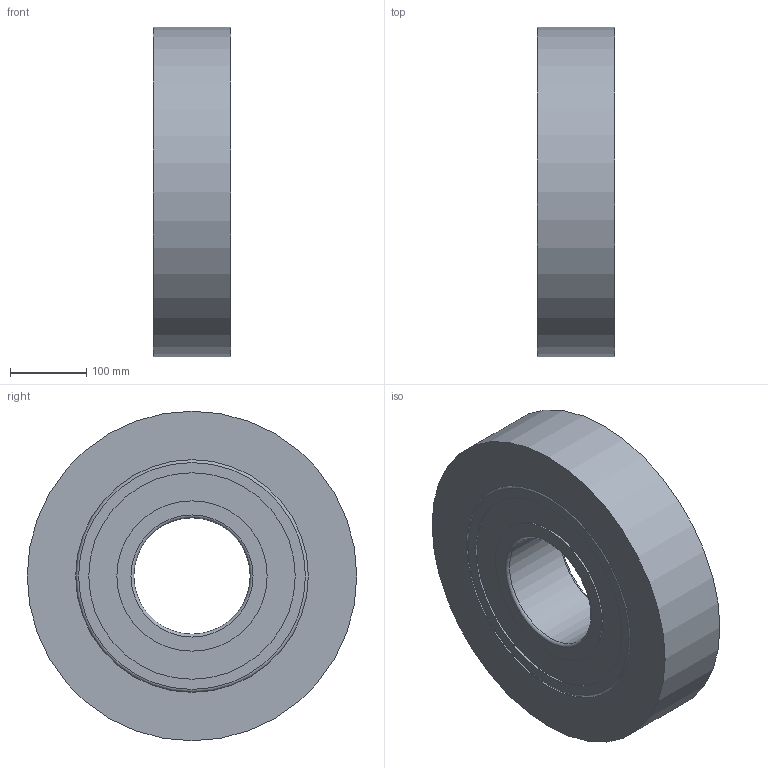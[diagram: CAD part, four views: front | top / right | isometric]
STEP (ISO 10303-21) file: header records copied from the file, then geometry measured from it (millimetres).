
FILE_DESCRIPTION((''),'1');
FILE_NAME('H:/図庫/国内ﾕﾆｯﾄ/ｶﾀﾛｸﾞ/ｺﾞﾑ直巻/ホームページ用ＣＡＤ図面/update用/3', '2017-07-14T08:57:01',(''), (''), 'KCM Version 1.1.1442.0', 'Kubotek KeyCreator', '');
FILE_SCHEMA(('AUTOMOTIVE_DESIGN'));
Length unit declared in the file: inch
Bounding box: 101.6 x 431.8 x 431.8 mm (x, y, z)
Surface area: 460216.7 mm2 (no closed solid volume)
Topology: 0 solids, 20 shells, 20 faces, 68 edges, 56 vertices
Faces by surface type: cylinder 8, plane 8, torus 4
Full cylindrical faces by diameter (mm): 152.4 x1, 196.85 x2, 270.51 x2, 304.8 x2, 431.8 x1
Entity records: 790 total; most frequent: DIRECTION 154, CARTESIAN_POINT 137, ORIENTED_EDGE 80, AXIS2_PLACEMENT_3D 73, EDGE_CURVE 68, VERTEX_POINT 56, CIRCLE 52, EDGE_LOOP 28
